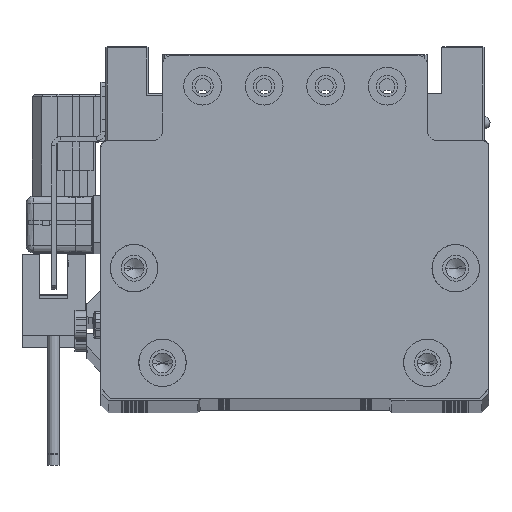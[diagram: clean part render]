
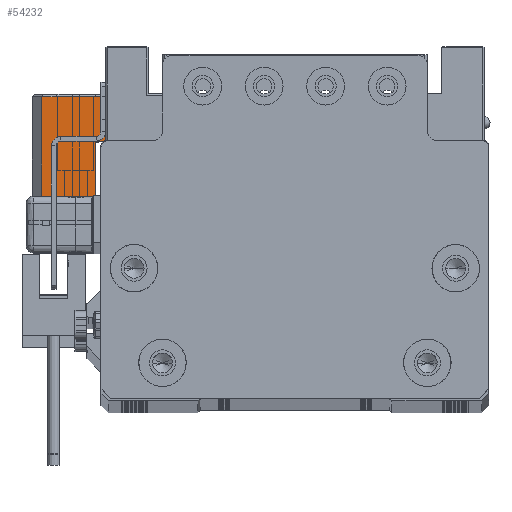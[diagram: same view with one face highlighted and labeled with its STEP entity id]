
A CAD part, top view. The second image highlights one B-rep face of the part: STEP entity #54232.
In plain terms, the highlighted planar face has unit normal (0, 0, 1) as drawn and (1, 0, 0) by its records, which use the part's own axes.
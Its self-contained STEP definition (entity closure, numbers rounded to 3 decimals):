
#53 = CARTESIAN_POINT ( 'NONE',  ( 17., 0.75, -13.3 ) ) ;
#1577 = CARTESIAN_POINT ( 'NONE',  ( 17., 0.75, -15.5 ) ) ;
#1588 = DIRECTION ( 'NONE',  ( 0., -1., 0. ) ) ;
#3001 = CARTESIAN_POINT ( 'NONE',  ( 17., 10.25, -15.5 ) ) ;
#4200 = AXIS2_PLACEMENT_3D ( 'NONE', #55340, #35991, #50829 ) ;
#5041 = EDGE_CURVE ( 'NONE', #42766, #25761, #44196, .T. ) ;
#5971 = EDGE_CURVE ( 'NONE', #43787, #10099, #42295, .T. ) ;
#8549 = VECTOR ( 'NONE', #36695, 1000. ) ;
#10099 = VERTEX_POINT ( 'NONE', #11570 ) ;
#10370 = DIRECTION ( 'NONE',  ( 0., -1., 0. ) ) ;
#11570 = CARTESIAN_POINT ( 'NONE',  ( 17., 10.25, -15.5 ) ) ;
#15466 = VERTEX_POINT ( 'NONE', #60589 ) ;
#24040 = ORIENTED_EDGE ( 'NONE', *, *, #5971, .T. ) ;
#25697 = LINE ( 'NONE', #1577, #54535 ) ;
#25761 = VERTEX_POINT ( 'NONE', #61251 ) ;
#26551 = CARTESIAN_POINT ( 'NONE',  ( 17., -10.75, -15.5 ) ) ;
#26721 = CARTESIAN_POINT ( 'NONE',  ( 17., -10.75, -15.5 ) ) ;
#27201 = VECTOR ( 'NONE', #56750, 1000. ) ;
#28422 = VECTOR ( 'NONE', #1588, 1000. ) ;
#31808 = ORIENTED_EDGE ( 'NONE', *, *, #34889, .F. ) ;
#34172 = EDGE_LOOP ( 'NONE', ( #24040, #45046, #38276, #45375, #54484, #31808 ) ) ;
#34838 = VERTEX_POINT ( 'NONE', #43443 ) ;
#34889 = EDGE_CURVE ( 'NONE', #43787, #42766, #25697, .T. ) ;
#35423 = VECTOR ( 'NONE', #61941, 1000. ) ;
#35991 = DIRECTION ( 'NONE',  ( 1., 0., 0. ) ) ;
#36695 = DIRECTION ( 'NONE',  ( 0., 0., 1. ) ) ;
#37093 = LINE ( 'NONE', #3001, #27201 ) ;
#38276 = ORIENTED_EDGE ( 'NONE', *, *, #46125, .T. ) ;
#42295 = LINE ( 'NONE', #26551, #35423 ) ;
#42534 = EDGE_CURVE ( 'NONE', #10099, #34838, #37093, .T. ) ;
#42744 = CARTESIAN_POINT ( 'NONE',  ( 17., 0.75, -15.5 ) ) ;
#42766 = VERTEX_POINT ( 'NONE', #53 ) ;
#43443 = CARTESIAN_POINT ( 'NONE',  ( 17., 10.25, -2. ) ) ;
#43787 = VERTEX_POINT ( 'NONE', #42744 ) ;
#44196 = LINE ( 'NONE', #49982, #57053 ) ;
#44747 = LINE ( 'NONE', #45701, #28422 ) ;
#45046 = ORIENTED_EDGE ( 'NONE', *, *, #42534, .T. ) ;
#45375 = ORIENTED_EDGE ( 'NONE', *, *, #58457, .F. ) ;
#45701 = CARTESIAN_POINT ( 'NONE',  ( 17., -10.75, -2. ) ) ;
#46010 = FACE_OUTER_BOUND ( 'NONE', #34172, .T. ) ;
#46071 = LINE ( 'NONE', #26721, #8549 ) ;
#46125 = EDGE_CURVE ( 'NONE', #34838, #15466, #44747, .T. ) ;
#49982 = CARTESIAN_POINT ( 'NONE',  ( 17., -10.75, -13.3 ) ) ;
#50829 = DIRECTION ( 'NONE',  ( 0., 0., -1. ) ) ;
#54232 = ADVANCED_FACE ( 'NONE', ( #46010 ), #60165, .T. ) ;
#54484 = ORIENTED_EDGE ( 'NONE', *, *, #5041, .F. ) ;
#54535 = VECTOR ( 'NONE', #60795, 1000. ) ;
#55340 = CARTESIAN_POINT ( 'NONE',  ( 17., -10.75, -15.5 ) ) ;
#56750 = DIRECTION ( 'NONE',  ( 0., 0., 1. ) ) ;
#57053 = VECTOR ( 'NONE', #10370, 1000. ) ;
#58457 = EDGE_CURVE ( 'NONE', #25761, #15466, #46071, .T. ) ;
#60165 = PLANE ( 'NONE',  #4200 ) ;
#60589 = CARTESIAN_POINT ( 'NONE',  ( 17., -10.75, -2. ) ) ;
#60795 = DIRECTION ( 'NONE',  ( 0., 0., 1. ) ) ;
#61251 = CARTESIAN_POINT ( 'NONE',  ( 17., -10.75, -13.3 ) ) ;
#61941 = DIRECTION ( 'NONE',  ( 0., 1., 0. ) ) ;
